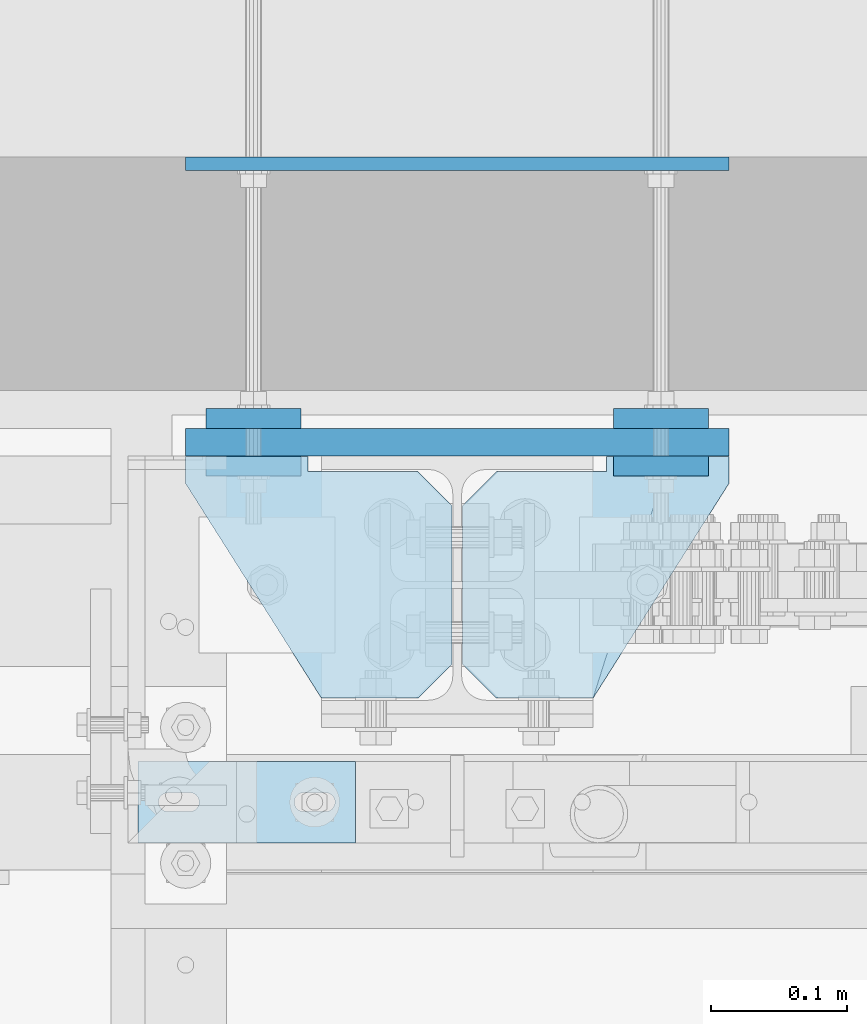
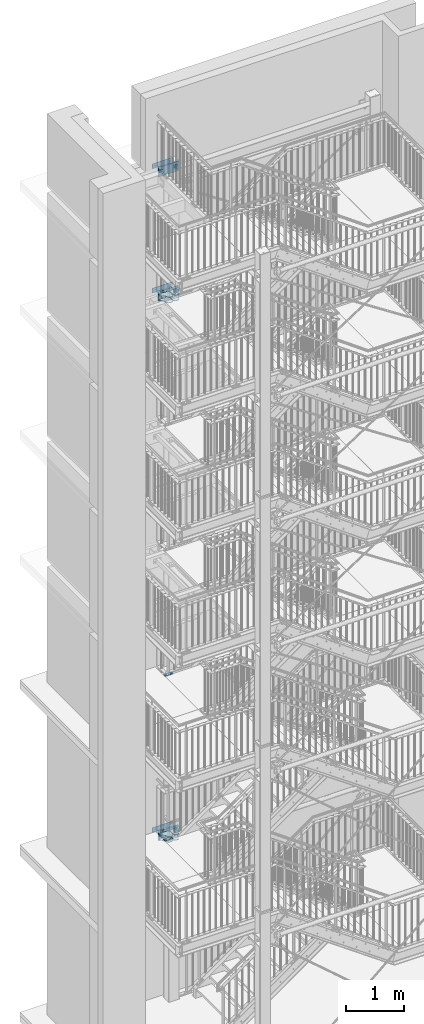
# One storey, part 184 of 825: 26 plates, 42 openings.
"""IFC2X3 building model written with IfcOpenShell, lengths in millimetres."""

from ifc_helpers import new_model, entity, si_unit, converted_unit, point, frame, frame_2d, origin, origin_with_axes, origin_2d_with_axis, place, context, project, spatial, polyline, circle_curve, line_curve, trimmed, segment, composite_curve, circle, outline, extrude, material, layer, layer_set, element, save


model = new_model("IFC2X3")

# Units and contexts
model_context = context("Model", 3, precision=1e-09, world=origin_with_axes())
ifc_project = project(units=[si_unit("LENGTHUNIT", "METRE", prefix="MILLI"), si_unit("AREAUNIT", "SQUARE_METRE"), si_unit("VOLUMEUNIT", "CUBIC_METRE"), converted_unit("PLANEANGLEUNIT", "DEGREE", entity("IfcPlaneAngleMeasure", 0.01745329), si_unit("PLANEANGLEUNIT", "RADIAN"), dimensions=[0, 0, 0, 0, 0, 0, 0])], contexts=[model_context])

# Site, building, storey
site_placement = place(None, origin_with_axes())
site = spatial("IfcSite", under=ifc_project, at=site_placement, Name="Cnopf'sche Kinderklinik", CompositionType="ELEMENT")
building_placement = place(site_placement, origin_with_axes())
building = spatial("IfcBuilding", under=site, at=building_placement, Name="Struktur 1", CompositionType="ELEMENT")
storey_placement = place(building_placement, origin_with_axes())
storey = spatial("IfcBuildingStorey", under=building, at=storey_placement, Name="Default Storey", CompositionType="ELEMENT", Elevation=0.0)

# Plate, openings
ifc_material = material(Name="S235JR")
ifc_layer_1 = layer(ifc_material, 10.0)
ifc_layer_set_1 = layer_set([ifc_layer_1], Name="S235JR")
plate_1_placement = place(None, frame((4856.713402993, 7831.736971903, 15149.000000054), z_axis=(0.0, -1.0, 0.0), x_axis=(1.0, 0.0, 0.0)))
plate_1 = element("IfcPlate", 1, at=plate_1_placement, inside=storey, material=ifc_layer_set_1, Name="-", ObjectType="-", context=model_context, shape_type="SweptSolid", body=[
    extrude(outline(polyline([(-200.0, -50.0), (200.0, -50.0), (200.0, 50.0), (-200.0, 50.0), (-200.0, -50.0)])), origin_with_axes(), (0.0, 0.0, 1.0), 10.0),
])
opening_1_placement = place(plate_1_placement, frame((-3.4e-08, -5.4e-08, -0.5), z_axis=(0.0, 0.0, 1.0), x_axis=(1.0, 0.0, 0.0)))
element("IfcOpeningElement", 2, at=opening_1_placement, cuts=plate_1, ObjectType="Opening", context=model_context, shape_type="SweptSolid", body=[
    extrude(circle(Radius=7.001, at=frame_2d((150.0, 0.0), x_axis=(1.0, 0.0))), origin(), (0.0, 0.0, 1.0), 11.0),
])
opening_2_placement = place(plate_1_placement, frame((-3.4e-08, -5.4e-08, -0.5), z_axis=(0.0, 0.0, 1.0), x_axis=(1.0, 0.0, 0.0)))
element("IfcOpeningElement", 3, at=opening_2_placement, cuts=plate_1, ObjectType="Opening", context=model_context, shape_type="SweptSolid", body=[
    extrude(circle(Radius=7.001, at=frame_2d((-150.0, 0.0), x_axis=(1.0, 0.0))), origin(), (0.0, 0.0, 1.0), 11.0),
])

# Plate, opening
ifc_layer_2 = layer(ifc_material, 15.0)
ifc_layer_set_2 = layer_set([ifc_layer_2], Name="S235JR")
plate_2_placement = place(None, frame((5006.713403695, 7611.736971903, 15149.0), z_axis=(0.0, 1.0, 0.0), x_axis=(-1.0, 0.0, 0.0)))
plate_2 = element("IfcPlate", 4, at=plate_2_placement, inside=storey, material=ifc_layer_set_2, Name="-", ObjectType="-", context=model_context, shape_type="SweptSolid", body=[
    extrude(outline(polyline([(-35.0, -35.0), (35.0, -35.0), (35.0, 35.0), (-35.0, 35.0), (-35.0, -35.0)])), origin_with_axes(), (0.0, 0.0, -1.0), 15.0),
])
opening_3_placement = place(plate_2_placement, frame((-7.001000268, 0.0, 0.5), z_axis=(0.0, 0.0, 1.0), x_axis=(1.0, 0.0, 0.0)))
element("IfcOpeningElement", 5, at=opening_3_placement, cuts=plate_2, ObjectType="Opening", context=model_context, shape_type="SweptSolid", body=[
    extrude(circle(Radius=7.001, at=frame_2d((7.001, 0.0), x_axis=(1.0, 0.0))), origin(), (0.0, 0.0, -1.0), 16.0),
])

plate_3_placement = place(None, frame((5006.713403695, 7646.736971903, 15149.0), z_axis=(0.0, 1.0, 0.0), x_axis=(-1.0, 0.0, 0.0)))
plate_3 = element("IfcPlate", 6, at=plate_3_placement, inside=storey, material=ifc_layer_set_2, Name="-", ObjectType="-", context=model_context, shape_type="SweptSolid", body=[
    extrude(outline(polyline([(-35.0, -35.0), (35.0, -35.0), (35.0, 35.0), (-35.0, 35.0), (-35.0, -35.0)])), origin_with_axes(), (0.0, 0.0, -1.0), 15.0),
])
opening_4_placement = place(plate_3_placement, frame((-7.001000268, 0.0, 0.5), z_axis=(0.0, 0.0, 1.0), x_axis=(1.0, 0.0, 0.0)))
element("IfcOpeningElement", 7, at=opening_4_placement, cuts=plate_3, ObjectType="Opening", context=model_context, shape_type="SweptSolid", body=[
    extrude(circle(Radius=7.001, at=frame_2d((7.001, 0.0), x_axis=(1.0, 0.0))), origin(), (0.0, 0.0, -1.0), 16.0),
])

# Plate, openings
ifc_layer_3 = layer(ifc_material, 20.0)
ifc_layer_set_3 = layer_set([ifc_layer_3], Name="S235JR")
plate_4_placement = place(None, frame((4856.713402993, 7631.736971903, 15149.000000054), z_axis=(0.0, -1.0, 0.0), x_axis=(1.0, 0.0, 0.0)))
plate_4 = element("IfcPlate", 8, at=plate_4_placement, inside=storey, material=ifc_layer_set_3, Name="-", ObjectType="-", context=model_context, shape_type="SweptSolid", body=[
    extrude(outline(polyline([(-200.0, -100.0), (200.0, -100.0), (200.0, 100.0), (-200.0, 100.0), (-200.0, -100.0)])), origin_with_axes(), (0.0, 0.0, 1.0), 20.0),
])
opening_5_placement = place(plate_4_placement, frame((-3.4e-08, -5.4e-08, -0.5), z_axis=(0.0, 0.0, 1.0), x_axis=(1.0, 0.0, 0.0)))
element("IfcOpeningElement", 9, at=opening_5_placement, cuts=plate_4, ObjectType="Opening", context=model_context, shape_type="SweptSolid", body=[
    extrude(circle(Radius=20.001, at=frame_2d((150.0, 0.0), x_axis=(1.0, 0.0))), origin(), (0.0, 0.0, 1.0), 21.0),
])
opening_6_placement = place(plate_4_placement, frame((-3.4e-08, -5.4e-08, -0.5), z_axis=(0.0, 0.0, 1.0), x_axis=(1.0, 0.0, 0.0)))
element("IfcOpeningElement", 10, at=opening_6_placement, cuts=plate_4, ObjectType="Opening", context=model_context, shape_type="SweptSolid", body=[
    extrude(circle(Radius=20.001, at=frame_2d((-150.0, 0.0), x_axis=(1.0, 0.0))), origin(), (0.0, 0.0, 1.0), 21.0),
])

plate_5_placement = place(None, frame((4656.713402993, 7611.236971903, 15204.000000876), z_axis=(0.0, 0.0, 1.0), x_axis=(0.0, -1.0, 0.0)))
plate_5 = element("IfcPlate", 11, at=plate_5_placement, inside=storey, material=ifc_layer_set_1, Name="-", ObjectType="-", context=model_context, shape_type="SweptSolid", body=[
    extrude(outline(polyline([(0.0, 0.0), (20.0, 0.0), (178.0, 100.0), (178.0, 196.0), (11.0, 196.0), (11.0, 90.0), (0.0, 90.0), (0.0, 0.0)])), origin_with_axes(), (0.0, 0.0, 1.0), 10.0),
])
opening_7_placement = place(plate_5_placement, frame((0.0, 0.0, -0.01), z_axis=(0.0, 0.0, 1.0), x_axis=(1.0, 0.0, 0.0)))
element("IfcOpeningElement", 12, at=opening_7_placement, cuts=plate_5, ObjectType="Opening", context=model_context, shape_type="SweptSolid", body=[
    extrude(outline(polyline([(11.0, 196.0), (11.0, 171.0), (36.0, 196.0), (11.0, 196.0)])), origin(), (0.0, 0.0, 1.0), 10.02),
])
opening_8_placement = place(plate_5_placement, frame((0.0, 0.0, -0.01), z_axis=(0.0, 0.0, 1.0), x_axis=(1.0, 0.0, 0.0)))
element("IfcOpeningElement", 13, at=opening_8_placement, cuts=plate_5, ObjectType="Opening", context=model_context, shape_type="SweptSolid", body=[
    extrude(outline(polyline([(178.0, 196.0), (153.0, 196.0), (178.0, 171.0), (178.0, 196.0)])), origin(), (0.0, 0.0, 1.0), 10.02),
])

plate_6_placement = place(None, frame((4656.713402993, 7611.236971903, 15084.000000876), z_axis=(0.0, 0.0, 1.0), x_axis=(0.0, -1.0, 0.0)))
plate_6 = element("IfcPlate", 14, at=plate_6_placement, inside=storey, material=ifc_layer_set_1, Name="-", ObjectType="-", context=model_context, shape_type="SweptSolid", body=[
    extrude(outline(polyline([(0.0, 0.0), (20.0, 0.0), (178.0, 100.0), (178.0, 196.0), (11.0, 196.0), (11.0, 90.0), (0.0, 90.0), (0.0, 0.0)])), origin_with_axes(), (0.0, 0.0, 1.0), 10.0),
])
opening_9_placement = place(plate_6_placement, frame((0.0, 0.0, -0.01), z_axis=(0.0, 0.0, 1.0), x_axis=(1.0, 0.0, 0.0)))
element("IfcOpeningElement", 15, at=opening_9_placement, cuts=plate_6, ObjectType="Opening", context=model_context, shape_type="SweptSolid", body=[
    extrude(outline(polyline([(11.0, 196.0), (11.0, 171.0), (36.0, 196.0), (11.0, 196.0)])), origin(), (0.0, 0.0, 1.0), 10.02),
])
opening_10_placement = place(plate_6_placement, frame((0.0, 0.0, -0.01), z_axis=(0.0, 0.0, 1.0), x_axis=(1.0, 0.0, 0.0)))
element("IfcOpeningElement", 16, at=opening_10_placement, cuts=plate_6, ObjectType="Opening", context=model_context, shape_type="SweptSolid", body=[
    extrude(outline(polyline([(178.0, 196.0), (153.0, 196.0), (178.0, 171.0), (178.0, 196.0)])), origin(), (0.0, 0.0, 1.0), 10.02),
])

plate_7_placement = place(None, frame((5056.713402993, 7611.236971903, 15204.000000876), z_axis=(0.0, 0.0, -1.0), x_axis=(0.0, -1.0, 0.0)))
plate_7 = element("IfcPlate", 17, at=plate_7_placement, inside=storey, material=ifc_layer_set_1, Name="-", ObjectType="-", context=model_context, shape_type="SweptSolid", body=[
    extrude(outline(polyline([(0.0, 0.0), (20.0, 0.0), (178.0, 100.0), (178.0, 196.0), (11.0, 196.0), (11.0, 90.0), (0.0, 90.0), (0.0, 0.0)])), origin_with_axes(), (0.0, 0.0, -1.0), 10.0),
])
opening_11_placement = place(plate_7_placement, frame((11.0, 196.0, 0.01), z_axis=(0.0, 0.0, 1.0), x_axis=(0.0, -1.0, 0.0)))
element("IfcOpeningElement", 18, at=opening_11_placement, cuts=plate_7, ObjectType="Opening", context=model_context, shape_type="SweptSolid", body=[
    extrude(outline(polyline([(0.0, 0.0), (25.0, 0.0), (0.0, 25.0), (0.0, 0.0)])), origin(), (0.0, 0.0, -1.0), 10.02),
])
opening_12_placement = place(plate_7_placement, frame((178.0, 196.0, 0.01), z_axis=(0.0, 0.0, 1.0), x_axis=(-1.0, 0.0, 0.0)))
element("IfcOpeningElement", 19, at=opening_12_placement, cuts=plate_7, ObjectType="Opening", context=model_context, shape_type="SweptSolid", body=[
    extrude(outline(polyline([(0.0, 0.0), (25.0, 0.0), (0.0, 25.0), (0.0, 0.0)])), origin(), (0.0, 0.0, -1.0), 10.02),
])

plate_8_placement = place(None, frame((5056.713402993, 7611.236971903, 15084.000000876), z_axis=(0.0, 0.0, -1.0), x_axis=(0.0, -1.0, 0.0)))
plate_8 = element("IfcPlate", 20, at=plate_8_placement, inside=storey, material=ifc_layer_set_1, Name="-", ObjectType="-", context=model_context, shape_type="SweptSolid", body=[
    extrude(outline(polyline([(0.0, 0.0), (20.0, 0.0), (178.0, 100.0), (178.0, 196.0), (11.0, 196.0), (11.0, 90.0), (0.0, 90.0), (0.0, 0.0)])), origin_with_axes(), (0.0, 0.0, -1.0), 10.0),
])
opening_13_placement = place(plate_8_placement, frame((11.0, 196.0, 0.01), z_axis=(0.0, 0.0, 1.0), x_axis=(0.0, -1.0, 0.0)))
element("IfcOpeningElement", 21, at=opening_13_placement, cuts=plate_8, ObjectType="Opening", context=model_context, shape_type="SweptSolid", body=[
    extrude(outline(polyline([(0.0, 0.0), (25.0, 0.0), (0.0, 25.0), (0.0, 0.0)])), origin(), (0.0, 0.0, -1.0), 10.02),
])
opening_14_placement = place(plate_8_placement, frame((178.0, 196.0, 0.01), z_axis=(0.0, 0.0, 1.0), x_axis=(-1.0, 0.0, 0.0)))
element("IfcOpeningElement", 22, at=opening_14_placement, cuts=plate_8, ObjectType="Opening", context=model_context, shape_type="SweptSolid", body=[
    extrude(outline(polyline([(0.0, 0.0), (25.0, 0.0), (0.0, 25.0), (0.0, 0.0)])), origin(), (0.0, 0.0, -1.0), 10.02),
])

# Plate, opening
plate_9_placement = place(None, frame((5006.713403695, 7646.736971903, 17769.0), z_axis=(0.0, 1.0, 0.0), x_axis=(-1.0, 0.0, 0.0)))
plate_9 = element("IfcPlate", 23, at=plate_9_placement, inside=storey, material=ifc_layer_set_2, Name="-", ObjectType="-", context=model_context, shape_type="SweptSolid", body=[
    extrude(outline(polyline([(-35.0, -35.0), (35.0, -35.0), (35.0, 35.0), (-35.0, 35.0), (-35.0, -35.0)])), origin_with_axes(), (0.0, 0.0, -1.0), 15.0),
])
opening_15_placement = place(plate_9_placement, frame((-7.001000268, 0.0, 0.5), z_axis=(0.0, 0.0, 1.0), x_axis=(1.0, 0.0, 0.0)))
element("IfcOpeningElement", 24, at=opening_15_placement, cuts=plate_9, ObjectType="Opening", context=model_context, shape_type="SweptSolid", body=[
    extrude(circle(Radius=7.001, at=frame_2d((7.001, 0.0), x_axis=(1.0, 0.0))), origin(), (0.0, 0.0, -1.0), 16.0),
])

plate_10_placement = place(None, frame((5006.713403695, 7611.736971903, 17769.0), z_axis=(0.0, 1.0, 0.0), x_axis=(-1.0, 0.0, 0.0)))
plate_10 = element("IfcPlate", 25, at=plate_10_placement, inside=storey, material=ifc_layer_set_2, Name="-", ObjectType="-", context=model_context, shape_type="SweptSolid", body=[
    extrude(outline(polyline([(-35.0, -35.0), (35.0, -35.0), (35.0, 35.0), (-35.0, 35.0), (-35.0, -35.0)])), origin_with_axes(), (0.0, 0.0, -1.0), 15.0),
])
opening_16_placement = place(plate_10_placement, frame((-7.001000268, 0.0, 0.5), z_axis=(0.0, 0.0, 1.0), x_axis=(1.0, 0.0, 0.0)))
element("IfcOpeningElement", 26, at=opening_16_placement, cuts=plate_10, ObjectType="Opening", context=model_context, shape_type="SweptSolid", body=[
    extrude(circle(Radius=7.001, at=frame_2d((7.001, 0.0), x_axis=(1.0, 0.0))), origin(), (0.0, 0.0, -1.0), 16.0),
])

# Plate, openings
plate_11_placement = place(None, frame((4856.713402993, 7831.736971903, 17769.000000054), z_axis=(0.0, -1.0, 0.0), x_axis=(1.0, 0.0, 0.0)))
plate_11 = element("IfcPlate", 27, at=plate_11_placement, inside=storey, material=ifc_layer_set_1, Name="-", ObjectType="-", context=model_context, shape_type="SweptSolid", body=[
    extrude(outline(polyline([(-200.0, -50.0), (200.0, -50.0), (200.0, 50.0), (-200.0, 50.0), (-200.0, -50.0)])), origin_with_axes(), (0.0, 0.0, 1.0), 10.0),
])
opening_17_placement = place(plate_11_placement, frame((-3.4e-08, -5.4e-08, -0.5), z_axis=(0.0, 0.0, 1.0), x_axis=(1.0, 0.0, 0.0)))
element("IfcOpeningElement", 28, at=opening_17_placement, cuts=plate_11, ObjectType="Opening", context=model_context, shape_type="SweptSolid", body=[
    extrude(circle(Radius=7.001, at=frame_2d((150.0, 0.0), x_axis=(1.0, 0.0))), origin(), (0.0, 0.0, 1.0), 11.0),
])
opening_18_placement = place(plate_11_placement, frame((-3.4e-08, -5.4e-08, -0.5), z_axis=(0.0, 0.0, 1.0), x_axis=(1.0, 0.0, 0.0)))
element("IfcOpeningElement", 29, at=opening_18_placement, cuts=plate_11, ObjectType="Opening", context=model_context, shape_type="SweptSolid", body=[
    extrude(circle(Radius=7.001, at=frame_2d((-150.0, 0.0), x_axis=(1.0, 0.0))), origin(), (0.0, 0.0, 1.0), 11.0),
])

# Plate, opening
plate_12_placement = place(None, frame((4706.71340296, 7646.736971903, 17769.0), z_axis=(0.0, -1.0, 0.0), x_axis=(1.0, 0.0, 0.0)))
plate_12 = element("IfcPlate", 30, at=plate_12_placement, inside=storey, material=ifc_layer_set_2, Name="-", ObjectType="-", context=model_context, shape_type="SweptSolid", body=[
    extrude(outline(polyline([(-35.0, -35.0), (35.0, -35.0), (35.0, 35.0), (-35.0, 35.0), (-35.0, -35.0)])), origin_with_axes(), (0.0, 0.0, 1.0), 15.0),
])
opening_19_placement = place(plate_12_placement, frame((-2.68e-07, 0.0, -0.5), z_axis=(0.0, 0.0, 1.0), x_axis=(1.0, 0.0, 0.0)))
element("IfcOpeningElement", 31, at=opening_19_placement, cuts=plate_12, ObjectType="Opening", context=model_context, shape_type="SweptSolid", body=[
    extrude(circle(Radius=7.001, at=origin_2d_with_axis()), origin(), (0.0, 0.0, 1.0), 16.0),
])

plate_13_placement = place(None, frame((4706.71340296, 7611.736971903, 17769.0), z_axis=(0.0, -1.0, 0.0), x_axis=(1.0, 0.0, 0.0)))
plate_13 = element("IfcPlate", 32, at=plate_13_placement, inside=storey, material=ifc_layer_set_2, Name="-", ObjectType="-", context=model_context, shape_type="SweptSolid", body=[
    extrude(outline(polyline([(-35.0, -35.0), (35.0, -35.0), (35.0, 35.0), (-35.0, 35.0), (-35.0, -35.0)])), origin_with_axes(), (0.0, 0.0, 1.0), 15.0),
])
opening_20_placement = place(plate_13_placement, frame((-2.68e-07, 0.0, -0.5), z_axis=(0.0, 0.0, 1.0), x_axis=(1.0, 0.0, 0.0)))
element("IfcOpeningElement", 33, at=opening_20_placement, cuts=plate_13, ObjectType="Opening", context=model_context, shape_type="SweptSolid", body=[
    extrude(circle(Radius=7.001, at=origin_2d_with_axis()), origin(), (0.0, 0.0, 1.0), 16.0),
])

# Plate, openings
plate_14_placement = place(None, frame((4856.713402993, 7631.736971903, 17769.000000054), z_axis=(0.0, -1.0, 0.0), x_axis=(1.0, 0.0, 0.0)))
plate_14 = element("IfcPlate", 34, at=plate_14_placement, inside=storey, material=ifc_layer_set_3, Name="-", ObjectType="-", context=model_context, shape_type="SweptSolid", body=[
    extrude(outline(polyline([(-200.0, -100.0), (200.0, -100.0), (200.0, 100.0), (-200.0, 100.0), (-200.0, -100.0)])), origin_with_axes(), (0.0, 0.0, 1.0), 20.0),
])
opening_21_placement = place(plate_14_placement, frame((-3.4e-08, -5.4e-08, -0.5), z_axis=(0.0, 0.0, 1.0), x_axis=(1.0, 0.0, 0.0)))
element("IfcOpeningElement", 35, at=opening_21_placement, cuts=plate_14, ObjectType="Opening", context=model_context, shape_type="SweptSolid", body=[
    extrude(circle(Radius=20.001, at=frame_2d((150.0, 0.0), x_axis=(1.0, 0.0))), origin(), (0.0, 0.0, 1.0), 21.0),
])
opening_22_placement = place(plate_14_placement, frame((-3.4e-08, -5.4e-08, -0.5), z_axis=(0.0, 0.0, 1.0), x_axis=(1.0, 0.0, 0.0)))
element("IfcOpeningElement", 36, at=opening_22_placement, cuts=plate_14, ObjectType="Opening", context=model_context, shape_type="SweptSolid", body=[
    extrude(circle(Radius=20.001, at=frame_2d((-150.0, 0.0), x_axis=(1.0, 0.0))), origin(), (0.0, 0.0, 1.0), 21.0),
])

# Plate, opening
plate_15_placement = place(None, frame((5006.713403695, 7611.736971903, 3782.0), z_axis=(0.0, 1.0, 0.0), x_axis=(-1.0, 0.0, 0.0)))
plate_15 = element("IfcPlate", 37, at=plate_15_placement, inside=storey, material=ifc_layer_set_2, Name="-", ObjectType="-", context=model_context, shape_type="SweptSolid", body=[
    extrude(outline(polyline([(-35.0, -35.0), (35.0, -35.0), (35.0, 35.0), (-35.0, 35.0), (-35.0, -35.0)])), origin_with_axes(), (0.0, 0.0, -1.0), 15.0),
])
opening_23_placement = place(plate_15_placement, frame((-7.001000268, 0.0, 0.5), z_axis=(0.0, 0.0, 1.0), x_axis=(1.0, 0.0, 0.0)))
element("IfcOpeningElement", 38, at=opening_23_placement, cuts=plate_15, ObjectType="Opening", context=model_context, shape_type="SweptSolid", body=[
    extrude(circle(Radius=7.001, at=frame_2d((7.001, 0.0), x_axis=(1.0, 0.0))), origin(), (0.0, 0.0, -1.0), 16.0),
])

plate_16_placement = place(None, frame((5006.713403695, 7646.736971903, 3782.0), z_axis=(0.0, 1.0, 0.0), x_axis=(-1.0, 0.0, 0.0)))
plate_16 = element("IfcPlate", 39, at=plate_16_placement, inside=storey, material=ifc_layer_set_2, Name="-", ObjectType="-", context=model_context, shape_type="SweptSolid", body=[
    extrude(outline(polyline([(-35.0, -35.0), (35.0, -35.0), (35.0, 35.0), (-35.0, 35.0), (-35.0, -35.0)])), origin_with_axes(), (0.0, 0.0, -1.0), 15.0),
])
opening_24_placement = place(plate_16_placement, frame((-7.001000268, 0.0, 0.5), z_axis=(0.0, 0.0, 1.0), x_axis=(1.0, 0.0, 0.0)))
element("IfcOpeningElement", 40, at=opening_24_placement, cuts=plate_16, ObjectType="Opening", context=model_context, shape_type="SweptSolid", body=[
    extrude(circle(Radius=7.001, at=frame_2d((7.001, 0.0), x_axis=(1.0, 0.0))), origin(), (0.0, 0.0, -1.0), 16.0),
])

# Plate, openings
plate_17_placement = place(None, frame((4856.713402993, 7831.736971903, 3782.000000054), z_axis=(0.0, -1.0, 0.0), x_axis=(1.0, 0.0, 0.0)))
plate_17 = element("IfcPlate", 41, at=plate_17_placement, inside=storey, material=ifc_layer_set_1, Name="-", ObjectType="-", context=model_context, shape_type="SweptSolid", body=[
    extrude(outline(polyline([(-200.0, -50.0), (200.0, -50.0), (200.0, 50.0), (-200.0, 50.0), (-200.0, -50.0)])), origin_with_axes(), (0.0, 0.0, 1.0), 10.0),
])
opening_25_placement = place(plate_17_placement, frame((-3.4e-08, -5.4e-08, -0.5), z_axis=(0.0, 0.0, 1.0), x_axis=(1.0, 0.0, 0.0)))
element("IfcOpeningElement", 42, at=opening_25_placement, cuts=plate_17, ObjectType="Opening", context=model_context, shape_type="SweptSolid", body=[
    extrude(circle(Radius=7.001, at=frame_2d((150.0, 0.0), x_axis=(1.0, 0.0))), origin(), (0.0, 0.0, 1.0), 11.0),
])
opening_26_placement = place(plate_17_placement, frame((-3.4e-08, -5.4e-08, -0.5), z_axis=(0.0, 0.0, 1.0), x_axis=(1.0, 0.0, 0.0)))
element("IfcOpeningElement", 43, at=opening_26_placement, cuts=plate_17, ObjectType="Opening", context=model_context, shape_type="SweptSolid", body=[
    extrude(circle(Radius=7.001, at=frame_2d((-150.0, 0.0), x_axis=(1.0, 0.0))), origin(), (0.0, 0.0, 1.0), 11.0),
])

plate_18_placement = place(None, frame((4656.713402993, 7611.236971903, 3837.000000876), z_axis=(0.0, 0.0, 1.0), x_axis=(0.0, -1.0, 0.0)))
plate_18 = element("IfcPlate", 44, at=plate_18_placement, inside=storey, material=ifc_layer_set_1, Name="-", ObjectType="-", context=model_context, shape_type="SweptSolid", body=[
    extrude(outline(polyline([(0.0, 0.0), (20.0, 0.0), (178.0, 100.0), (178.0, 196.0), (11.0, 196.0), (11.0, 90.0), (0.0, 90.0), (0.0, 0.0)])), origin_with_axes(), (0.0, 0.0, 1.0), 10.0),
])
opening_27_placement = place(plate_18_placement, frame((0.0, 0.0, -0.01), z_axis=(0.0, 0.0, 1.0), x_axis=(1.0, 0.0, 0.0)))
element("IfcOpeningElement", 45, at=opening_27_placement, cuts=plate_18, ObjectType="Opening", context=model_context, shape_type="SweptSolid", body=[
    extrude(outline(polyline([(11.0, 196.0), (11.0, 171.0), (36.0, 196.0), (11.0, 196.0)])), origin(), (0.0, 0.0, 1.0), 10.02),
])
opening_28_placement = place(plate_18_placement, frame((0.0, 0.0, -0.01), z_axis=(0.0, 0.0, 1.0), x_axis=(1.0, 0.0, 0.0)))
element("IfcOpeningElement", 46, at=opening_28_placement, cuts=plate_18, ObjectType="Opening", context=model_context, shape_type="SweptSolid", body=[
    extrude(outline(polyline([(178.0, 196.0), (153.0, 196.0), (178.0, 171.0), (178.0, 196.0)])), origin(), (0.0, 0.0, 1.0), 10.02),
])

plate_19_placement = place(None, frame((5056.713402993, 7611.236971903, 3837.000000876), z_axis=(0.0, 0.0, -1.0), x_axis=(0.0, -1.0, 0.0)))
plate_19 = element("IfcPlate", 47, at=plate_19_placement, inside=storey, material=ifc_layer_set_1, Name="-", ObjectType="-", context=model_context, shape_type="SweptSolid", body=[
    extrude(outline(polyline([(0.0, 0.0), (20.0, 0.0), (178.0, 100.0), (178.0, 196.0), (11.0, 196.0), (11.0, 90.0), (0.0, 90.0), (0.0, 0.0)])), origin_with_axes(), (0.0, 0.0, -1.0), 10.0),
])
opening_29_placement = place(plate_19_placement, frame((11.0, 196.0, 0.01), z_axis=(0.0, 0.0, 1.0), x_axis=(0.0, -1.0, 0.0)))
element("IfcOpeningElement", 48, at=opening_29_placement, cuts=plate_19, ObjectType="Opening", context=model_context, shape_type="SweptSolid", body=[
    extrude(outline(polyline([(0.0, 0.0), (25.0, 0.0), (0.0, 25.0), (0.0, 0.0)])), origin(), (0.0, 0.0, -1.0), 10.02),
])
opening_30_placement = place(plate_19_placement, frame((178.0, 196.0, 0.01), z_axis=(0.0, 0.0, 1.0), x_axis=(-1.0, 0.0, 0.0)))
element("IfcOpeningElement", 49, at=opening_30_placement, cuts=plate_19, ObjectType="Opening", context=model_context, shape_type="SweptSolid", body=[
    extrude(outline(polyline([(0.0, 0.0), (25.0, 0.0), (0.0, 25.0), (0.0, 0.0)])), origin(), (0.0, 0.0, -1.0), 10.02),
])

plate_20_placement = place(None, frame((4656.713402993, 7611.236971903, 3717.000000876), z_axis=(0.0, 0.0, 1.0), x_axis=(0.0, -1.0, 0.0)))
plate_20 = element("IfcPlate", 50, at=plate_20_placement, inside=storey, material=ifc_layer_set_1, Name="-", ObjectType="-", context=model_context, shape_type="SweptSolid", body=[
    extrude(outline(polyline([(0.0, 0.0), (20.0, 0.0), (178.0, 100.0), (178.0, 196.0), (11.0, 196.0), (11.0, 90.0), (0.0, 90.0), (0.0, 0.0)])), origin_with_axes(), (0.0, 0.0, 1.0), 10.0),
])
opening_31_placement = place(plate_20_placement, frame((0.0, 0.0, -0.01), z_axis=(0.0, 0.0, 1.0), x_axis=(1.0, 0.0, 0.0)))
element("IfcOpeningElement", 51, at=opening_31_placement, cuts=plate_20, ObjectType="Opening", context=model_context, shape_type="SweptSolid", body=[
    extrude(outline(polyline([(11.0, 196.0), (11.0, 171.0), (36.0, 196.0), (11.0, 196.0)])), origin(), (0.0, 0.0, 1.0), 10.02),
])
opening_32_placement = place(plate_20_placement, frame((0.0, 0.0, -0.01), z_axis=(0.0, 0.0, 1.0), x_axis=(1.0, 0.0, 0.0)))
element("IfcOpeningElement", 52, at=opening_32_placement, cuts=plate_20, ObjectType="Opening", context=model_context, shape_type="SweptSolid", body=[
    extrude(outline(polyline([(178.0, 196.0), (153.0, 196.0), (178.0, 171.0), (178.0, 196.0)])), origin(), (0.0, 0.0, 1.0), 10.02),
])

plate_21_placement = place(None, frame((5056.713402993, 7611.236971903, 3717.000000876), z_axis=(0.0, 0.0, -1.0), x_axis=(0.0, -1.0, 0.0)))
plate_21 = element("IfcPlate", 53, at=plate_21_placement, inside=storey, material=ifc_layer_set_1, Name="-", ObjectType="-", context=model_context, shape_type="SweptSolid", body=[
    extrude(outline(polyline([(0.0, 49.919652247), (20.0, 49.999999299), (178.0, 100.0), (178.0, 196.0), (11.0, 196.0), (11.0, 90.0), (0.0, 90.0), (0.0, 49.919652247)])), origin_with_axes(), (0.0, 0.0, -1.0), 10.0),
])
opening_33_placement = place(plate_21_placement, frame((11.0, 196.0, 0.01), z_axis=(0.0, 0.0, 1.0), x_axis=(0.0, -1.0, 0.0)))
element("IfcOpeningElement", 54, at=opening_33_placement, cuts=plate_21, ObjectType="Opening", context=model_context, shape_type="SweptSolid", body=[
    extrude(outline(polyline([(0.0, 0.0), (25.0, 0.0), (0.0, 25.0), (0.0, 0.0)])), origin(), (0.0, 0.0, -1.0), 10.02),
])
opening_34_placement = place(plate_21_placement, frame((178.0, 196.0, 0.01), z_axis=(0.0, 0.0, 1.0), x_axis=(-1.0, 0.0, 0.0)))
element("IfcOpeningElement", 55, at=opening_34_placement, cuts=plate_21, ObjectType="Opening", context=model_context, shape_type="SweptSolid", body=[
    extrude(outline(polyline([(0.0, 0.0), (25.0, 0.0), (0.0, 25.0), (0.0, 0.0)])), origin(), (0.0, 0.0, -1.0), 10.02),
])

plate_22_placement = place(None, frame((4856.713402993, 7631.736971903, 3782.000000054), z_axis=(0.0, -1.0, 0.0), x_axis=(1.0, 0.0, 0.0)))
plate_22 = element("IfcPlate", 56, at=plate_22_placement, inside=storey, material=ifc_layer_set_3, Name="-", ObjectType="-", context=model_context, shape_type="SweptSolid", body=[
    extrude(outline(polyline([(-200.0, -100.0), (200.0, -100.0), (200.0, 100.0), (-200.0, 100.0), (-200.0, -100.0)])), origin_with_axes(), (0.0, 0.0, 1.0), 20.0),
])
opening_35_placement = place(plate_22_placement, frame((-3.4e-08, -5.4e-08, -0.5), z_axis=(0.0, 0.0, 1.0), x_axis=(1.0, 0.0, 0.0)))
element("IfcOpeningElement", 57, at=opening_35_placement, cuts=plate_22, ObjectType="Opening", context=model_context, shape_type="SweptSolid", body=[
    extrude(circle(Radius=20.001, at=frame_2d((150.0, 0.0), x_axis=(1.0, 0.0))), origin(), (0.0, 0.0, 1.0), 21.0),
])
opening_36_placement = place(plate_22_placement, frame((-3.4e-08, -5.4e-08, -0.5), z_axis=(0.0, 0.0, 1.0), x_axis=(1.0, 0.0, 0.0)))
element("IfcOpeningElement", 58, at=opening_36_placement, cuts=plate_22, ObjectType="Opening", context=model_context, shape_type="SweptSolid", body=[
    extrude(circle(Radius=20.001, at=frame_2d((-150.0, 0.0), x_axis=(1.0, 0.0))), origin(), (0.0, 0.0, 1.0), 21.0),
])

# Plate, opening
plate_23_placement = place(None, frame((4706.71340296, 7611.736971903, 3782.0), z_axis=(0.0, -1.0, 0.0), x_axis=(1.0, 0.0, 0.0)))
plate_23 = element("IfcPlate", 59, at=plate_23_placement, inside=storey, material=ifc_layer_set_2, Name="-", ObjectType="-", context=model_context, shape_type="SweptSolid", body=[
    extrude(outline(polyline([(-35.0, -35.0), (35.0, -35.0), (35.0, 35.0), (-35.0, 35.0), (-35.0, -35.0)])), origin_with_axes(), (0.0, 0.0, 1.0), 15.0),
])
opening_37_placement = place(plate_23_placement, frame((-2.68e-07, 0.0, -0.5), z_axis=(0.0, 0.0, 1.0), x_axis=(1.0, 0.0, 0.0)))
element("IfcOpeningElement", 60, at=opening_37_placement, cuts=plate_23, ObjectType="Opening", context=model_context, shape_type="SweptSolid", body=[
    extrude(circle(Radius=7.001, at=origin_2d_with_axis()), origin(), (0.0, 0.0, 1.0), 16.0),
])

plate_24_placement = place(None, frame((4706.71340296, 7646.736971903, 3782.0), z_axis=(0.0, -1.0, 0.0), x_axis=(1.0, 0.0, 0.0)))
plate_24 = element("IfcPlate", 61, at=plate_24_placement, inside=storey, material=ifc_layer_set_2, Name="-", ObjectType="-", context=model_context, shape_type="SweptSolid", body=[
    extrude(outline(polyline([(-35.0, -35.0), (35.0, -35.0), (35.0, 35.0), (-35.0, 35.0), (-35.0, -35.0)])), origin_with_axes(), (0.0, 0.0, 1.0), 15.0),
])
opening_38_placement = place(plate_24_placement, frame((-2.68e-07, 0.0, -0.5), z_axis=(0.0, 0.0, 1.0), x_axis=(1.0, 0.0, 0.0)))
element("IfcOpeningElement", 62, at=opening_38_placement, cuts=plate_24, ObjectType="Opening", context=model_context, shape_type="SweptSolid", body=[
    extrude(circle(Radius=7.001, at=origin_2d_with_axis()), origin(), (0.0, 0.0, 1.0), 16.0),
])

# Plate, openings
plate_25_placement = place(None, frame((4781.713402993, 7386.736971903, 3847.0), z_axis=(0.0, 0.0, 1.0), x_axis=(-1.0, 0.0, 0.0)))
plate_25 = element("IfcPlate", 63, at=plate_25_placement, inside=storey, material=ifc_layer_set_3, Name="Plate#500", ObjectType="Plate#500", context=model_context, shape_type="SweptSolid", body=[
    extrude(outline(polyline([(0.0, 0.0), (160.0, 0.0), (160.0, 60.0), (0.0, 60.0), (0.0, 0.0)])), origin_with_axes(), (0.0, 0.0, 1.0), 20.0),
])
opening_39_placement = place(plate_25_placement, frame((38.0, 37.001, 20.5), z_axis=(0.0, 0.0, 1.0), x_axis=(-1.0, 0.0, 0.0)))
element("IfcOpeningElement", 64, at=opening_39_placement, cuts=plate_25, ObjectType="Opening", context=model_context, shape_type="SweptSolid", body=[
    extrude(outline(composite_curve([segment(trimmed(line_curve((0.0, 0.0), (1.0, 0.0), 16.0), [point((0.0, 0.0))], [point((16.0, 0.0))], True, "CARTESIAN"), True, "CONTINUOUS"), segment(trimmed(circle_curve(frame_2d((16.0, 7.001), x_axis=(1.0, 0.0)), 7.001), [point((16.0, 0.0))], [point((16.0, 14.002))], True, "CARTESIAN"), True, "CONTINUOUS"), segment(trimmed(line_curve((16.0, 14.002), (-1.0, 0.0), 16.0), [point((16.0, 14.002))], [point((0.0, 14.002))], True, "CARTESIAN"), True, "CONTINUOUS"), segment(trimmed(circle_curve(frame_2d((0.0, 7.001), x_axis=(1.0, 0.0)), 7.001), [point((0.0, 14.002))], [point((0.0, 0.0))], True, "CARTESIAN"), True, "CONTINUOUS")], self_intersect=False)), origin(), (0.0, 0.0, -1.0), 21.0),
])
opening_40_placement = place(plate_25_placement, frame((138.0, 37.001, 20.5), z_axis=(0.0, 0.0, 1.0), x_axis=(-1.0, 0.0, 0.0)))
element("IfcOpeningElement", 65, at=opening_40_placement, cuts=plate_25, ObjectType="Opening", context=model_context, shape_type="SweptSolid", body=[
    extrude(outline(composite_curve([segment(trimmed(line_curve((0.0, 0.0), (1.0, 0.0), 16.0), [point((0.0, 0.0))], [point((16.0, 0.0))], True, "CARTESIAN"), True, "CONTINUOUS"), segment(trimmed(circle_curve(frame_2d((16.0, 7.001), x_axis=(1.0, 0.0)), 7.001), [point((16.0, 0.0))], [point((16.0, 14.002))], True, "CARTESIAN"), True, "CONTINUOUS"), segment(trimmed(line_curve((16.0, 14.002), (-1.0, 0.0), 16.0), [point((16.0, 14.002))], [point((0.0, 14.002))], True, "CARTESIAN"), True, "CONTINUOUS"), segment(trimmed(circle_curve(frame_2d((0.0, 7.001), x_axis=(1.0, 0.0)), 7.001), [point((0.0, 14.002))], [point((0.0, 0.0))], True, "CARTESIAN"), True, "CONTINUOUS")], self_intersect=False)), origin(), (0.0, 0.0, -1.0), 21.0),
])

plate_26_placement = place(None, frame((4781.713402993, 7386.736971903, 7320.0), z_axis=(0.0, 0.0, 1.0), x_axis=(-1.0, 0.0, 0.0)))
plate_26 = element("IfcPlate", 66, at=plate_26_placement, inside=storey, material=ifc_layer_set_3, Name="Plate#500", ObjectType="Plate#500", context=model_context, shape_type="SweptSolid", body=[
    extrude(outline(polyline([(0.0, 0.0), (160.0, 0.0), (160.0, 60.0), (0.0, 60.0), (0.0, 0.0)])), origin_with_axes(), (0.0, 0.0, 1.0), 20.0),
])
opening_41_placement = place(plate_26_placement, frame((38.0, 37.001, 20.5), z_axis=(0.0, 0.0, 1.0), x_axis=(-1.0, 0.0, 0.0)))
element("IfcOpeningElement", 67, at=opening_41_placement, cuts=plate_26, ObjectType="Opening", context=model_context, shape_type="SweptSolid", body=[
    extrude(outline(composite_curve([segment(trimmed(line_curve((0.0, 0.0), (1.0, 0.0), 16.0), [point((0.0, 0.0))], [point((16.0, 0.0))], True, "CARTESIAN"), True, "CONTINUOUS"), segment(trimmed(circle_curve(frame_2d((16.0, 7.001), x_axis=(1.0, 0.0)), 7.001), [point((16.0, 0.0))], [point((16.0, 14.002))], True, "CARTESIAN"), True, "CONTINUOUS"), segment(trimmed(line_curve((16.0, 14.002), (-1.0, 0.0), 16.0), [point((16.0, 14.002))], [point((0.0, 14.002))], True, "CARTESIAN"), True, "CONTINUOUS"), segment(trimmed(circle_curve(frame_2d((0.0, 7.001), x_axis=(1.0, 0.0)), 7.001), [point((0.0, 14.002))], [point((0.0, 0.0))], True, "CARTESIAN"), True, "CONTINUOUS")], self_intersect=False)), origin(), (0.0, 0.0, -1.0), 21.0),
])
opening_42_placement = place(plate_26_placement, frame((138.0, 37.001, 20.5), z_axis=(0.0, 0.0, 1.0), x_axis=(-1.0, 0.0, 0.0)))
element("IfcOpeningElement", 68, at=opening_42_placement, cuts=plate_26, ObjectType="Opening", context=model_context, shape_type="SweptSolid", body=[
    extrude(outline(composite_curve([segment(trimmed(line_curve((0.0, 0.0), (1.0, 0.0), 16.0), [point((0.0, 0.0))], [point((16.0, 0.0))], True, "CARTESIAN"), True, "CONTINUOUS"), segment(trimmed(circle_curve(frame_2d((16.0, 7.001), x_axis=(1.0, 0.0)), 7.001), [point((16.0, 0.0))], [point((16.0, 14.002))], True, "CARTESIAN"), True, "CONTINUOUS"), segment(trimmed(line_curve((16.0, 14.002), (-1.0, 0.0), 16.0), [point((16.0, 14.002))], [point((0.0, 14.002))], True, "CARTESIAN"), True, "CONTINUOUS"), segment(trimmed(circle_curve(frame_2d((0.0, 7.001), x_axis=(1.0, 0.0)), 7.001), [point((0.0, 14.002))], [point((0.0, 0.0))], True, "CARTESIAN"), True, "CONTINUOUS")], self_intersect=False)), origin(), (0.0, 0.0, -1.0), 21.0),
])

save(model, "model.ifc")
